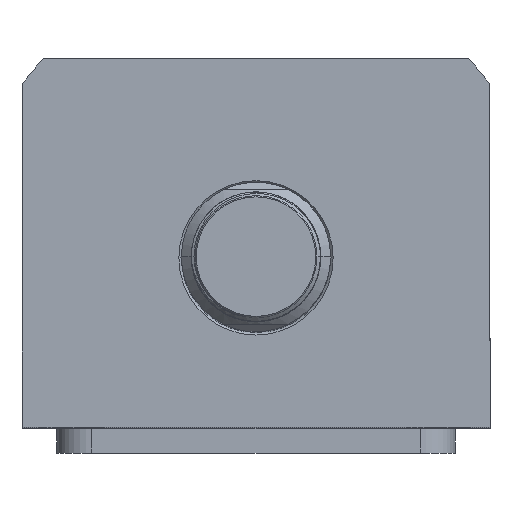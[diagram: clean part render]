
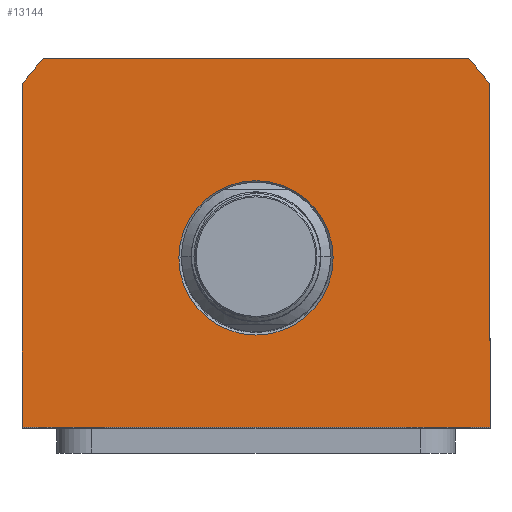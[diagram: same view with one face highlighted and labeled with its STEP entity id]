
A CAD part, top view. The second image highlights one B-rep face of the part: STEP entity #13144.
In plain terms, the highlighted planar face has unit normal (0, 0, 1).
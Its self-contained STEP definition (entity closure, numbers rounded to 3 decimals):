
#130 = LINE ( 'NONE', #11573, #14859 ) ;
#361 = AXIS2_PLACEMENT_3D ( 'NONE', #544, #2078, #12478 ) ;
#432 = VECTOR ( 'NONE', #16866, 1000. ) ;
#544 = CARTESIAN_POINT ( 'NONE',  ( 0., 0., 85. ) ) ;
#921 = EDGE_LOOP ( 'NONE', ( #11229, #9969 ) ) ;
#2078 = DIRECTION ( 'NONE',  ( 0., 0., 1. ) ) ;
#2608 = VERTEX_POINT ( 'NONE', #19378 ) ;
#2625 = VERTEX_POINT ( 'NONE', #11746 ) ;
#2770 = DIRECTION ( 'NONE',  ( 1., 0., 0. ) ) ;
#2794 = ORIENTED_EDGE ( 'NONE', *, *, #10554, .T. ) ;
#3376 = CARTESIAN_POINT ( 'NONE',  ( -47., -34., 85. ) ) ;
#3741 = DIRECTION ( 'NONE',  ( 1., 0., 0. ) ) ;
#3836 = AXIS2_PLACEMENT_3D ( 'NONE', #13890, #6083, #15445 ) ;
#4013 = DIRECTION ( 'NONE',  ( -1., 0., 0. ) ) ;
#4082 = VERTEX_POINT ( 'NONE', #12964 ) ;
#4369 = VECTOR ( 'NONE', #19672, 1000. ) ;
#4446 = VERTEX_POINT ( 'NONE', #3376 ) ;
#4812 = CIRCLE ( 'NONE', #361, 58.5 ) ;
#5395 = CARTESIAN_POINT ( 'NONE',  ( 0., 0., 85. ) ) ;
#5738 = DIRECTION ( 'NONE',  ( 0., 0., 1. ) ) ;
#6083 = DIRECTION ( 'NONE',  ( 0., 0., -1. ) ) ;
#6166 = ORIENTED_EDGE ( 'NONE', *, *, #16971, .T. ) ;
#6380 = LINE ( 'NONE', #7520, #432 ) ;
#6438 = CARTESIAN_POINT ( 'NONE',  ( 0., 0., 85. ) ) ;
#6511 = CIRCLE ( 'NONE', #18135, 15.5 ) ;
#6631 = EDGE_CURVE ( 'NONE', #2608, #4082, #130, .T. ) ;
#7337 = DIRECTION ( 'NONE',  ( 0., 1., 0. ) ) ;
#7395 = AXIS2_PLACEMENT_3D ( 'NONE', #6438, #14122, #18617 ) ;
#7520 = CARTESIAN_POINT ( 'NONE',  ( 47., -34., 85. ) ) ;
#8621 = EDGE_CURVE ( 'NONE', #16717, #4446, #12917, .T. ) ;
#8779 = ORIENTED_EDGE ( 'NONE', *, *, #14927, .T. ) ;
#8872 = PLANE ( 'NONE',  #15955 ) ;
#9508 = EDGE_CURVE ( 'NONE', #14457, #2608, #4812, .T. ) ;
#9526 = CARTESIAN_POINT ( 'NONE',  ( 47., 34.832, 85. ) ) ;
#9814 = CARTESIAN_POINT ( 'NONE',  ( -47., 34.832, 85. ) ) ;
#9969 = ORIENTED_EDGE ( 'NONE', *, *, #18044, .T. ) ;
#10554 = EDGE_CURVE ( 'NONE', #4082, #16717, #12158, .T. ) ;
#10799 = CARTESIAN_POINT ( 'NONE',  ( 15.5, 0., 85. ) ) ;
#10810 = LINE ( 'NONE', #11700, #16528 ) ;
#11189 = VERTEX_POINT ( 'NONE', #10799 ) ;
#11229 = ORIENTED_EDGE ( 'NONE', *, *, #12571, .T. ) ;
#11573 = CARTESIAN_POINT ( 'NONE',  ( -42.688, 40., 85. ) ) ;
#11594 = VERTEX_POINT ( 'NONE', #15276 ) ;
#11700 = CARTESIAN_POINT ( 'NONE',  ( 47., 34.832, 85. ) ) ;
#11746 = CARTESIAN_POINT ( 'NONE',  ( 47., -34., 85. ) ) ;
#12158 = CIRCLE ( 'NONE', #7395, 58.5 ) ;
#12478 = DIRECTION ( 'NONE',  ( 1., 0., 0. ) ) ;
#12571 = EDGE_CURVE ( 'NONE', #11189, #11594, #14266, .T. ) ;
#12917 = LINE ( 'NONE', #16768, #4369 ) ;
#12964 = CARTESIAN_POINT ( 'NONE',  ( -42.688, 40., 85. ) ) ;
#13015 = ORIENTED_EDGE ( 'NONE', *, *, #8621, .T. ) ;
#13019 = DIRECTION ( 'NONE',  ( 0., 0., -1. ) ) ;
#13144 = ADVANCED_FACE ( 'NONE', ( #15938, #15428 ), #8872, .T. ) ;
#13890 = CARTESIAN_POINT ( 'NONE',  ( 0., 0., 85. ) ) ;
#14122 = DIRECTION ( 'NONE',  ( 0., 0., 1. ) ) ;
#14266 = CIRCLE ( 'NONE', #3836, 15.5 ) ;
#14457 = VERTEX_POINT ( 'NONE', #9526 ) ;
#14859 = VECTOR ( 'NONE', #4013, 1000. ) ;
#14927 = EDGE_CURVE ( 'NONE', #4446, #2625, #6380, .T. ) ;
#15276 = CARTESIAN_POINT ( 'NONE',  ( -15.5, 0., 85. ) ) ;
#15422 = EDGE_LOOP ( 'NONE', ( #8779, #6166, #19711, #17381, #2794, #13015 ) ) ;
#15428 = FACE_OUTER_BOUND ( 'NONE', #15422, .T. ) ;
#15445 = DIRECTION ( 'NONE',  ( 1., 0., 0. ) ) ;
#15938 = FACE_BOUND ( 'NONE', #921, .T. ) ;
#15955 = AXIS2_PLACEMENT_3D ( 'NONE', #19586, #5738, #2770 ) ;
#16528 = VECTOR ( 'NONE', #7337, 1000. ) ;
#16717 = VERTEX_POINT ( 'NONE', #9814 ) ;
#16768 = CARTESIAN_POINT ( 'NONE',  ( -47., -34., 85. ) ) ;
#16866 = DIRECTION ( 'NONE',  ( 1., 0., 0. ) ) ;
#16971 = EDGE_CURVE ( 'NONE', #2625, #14457, #10810, .T. ) ;
#17381 = ORIENTED_EDGE ( 'NONE', *, *, #6631, .T. ) ;
#18044 = EDGE_CURVE ( 'NONE', #11594, #11189, #6511, .T. ) ;
#18135 = AXIS2_PLACEMENT_3D ( 'NONE', #5395, #13019, #3741 ) ;
#18617 = DIRECTION ( 'NONE',  ( 1., 0., 0. ) ) ;
#19378 = CARTESIAN_POINT ( 'NONE',  ( 42.688, 40., 85. ) ) ;
#19586 = CARTESIAN_POINT ( 'NONE',  ( 0., 0., 85. ) ) ;
#19672 = DIRECTION ( 'NONE',  ( 0., -1., 0. ) ) ;
#19711 = ORIENTED_EDGE ( 'NONE', *, *, #9508, .T. ) ;
